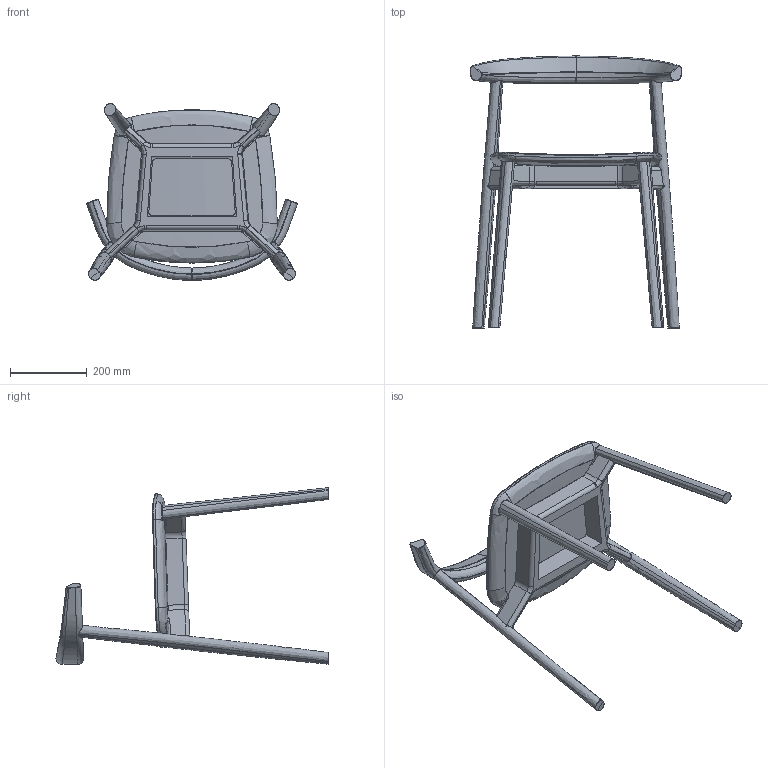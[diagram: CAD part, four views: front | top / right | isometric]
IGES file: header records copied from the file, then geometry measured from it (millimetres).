
Start section: SolidWorks IGES file using analytic representation for surfaces
Global section: file name: C:\Users\Ruben.BDLE\Box\Matthew Hilton\410 Ando chair\sales related\3D IGES\410 Ando chair_vb_cadeira prmt.IGS; native system: SolidWorks 2016; preprocessor: SolidWorks 2016; author: Ruben; date: 200206.111718; units: millimetre
Bounding box: 549.5 x 709.61 x 460.76 mm (x, y, z)
Surface area: 897300.1 mm2 (no closed solid volume)
Topology: 0 solids, 0 shells, 336 faces, 4982 edges, 4959 vertices
Faces by surface type: bspline 213, revolution 123
